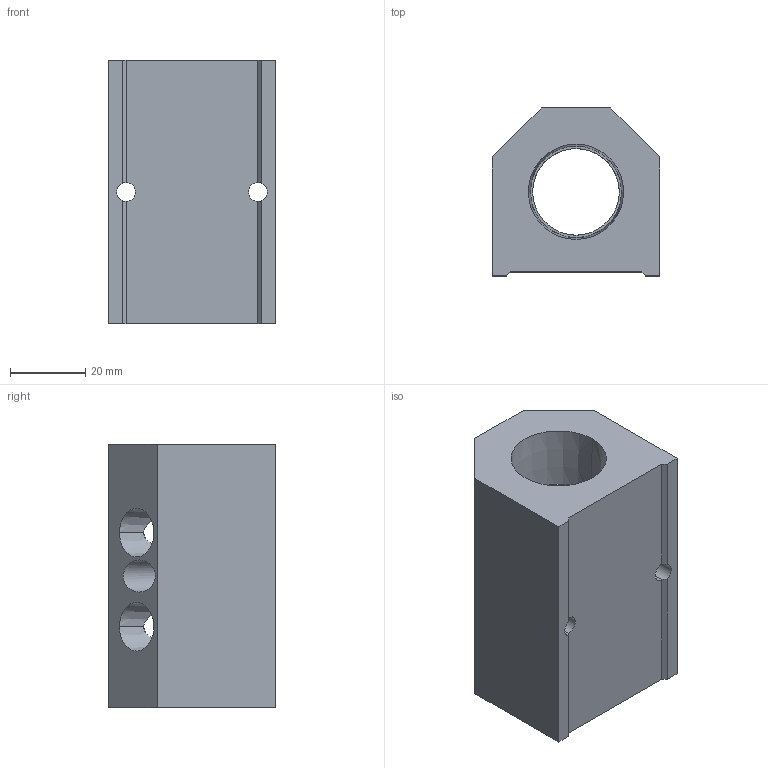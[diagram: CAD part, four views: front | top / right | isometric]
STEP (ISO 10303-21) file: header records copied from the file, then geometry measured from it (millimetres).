
FILE_DESCRIPTION (( 'STEP AP214' ), '1' );
FILE_NAME ('ALM2BCD-N4N12-70R.step', '2022-02-06T14:05:58', ( '' ), ( '' ), 'SwSTEP 2.0', 'SolidWorks 2020', '' );
FILE_SCHEMA (( 'AUTOMOTIVE_DESIGN' ));
Length unit declared in the file: millimetre
Products named in the file (1): ALM2BCD-N4N12-70R
Bounding box: 44.5 x 44.5 x 70 mm (x, y, z)
Volume: 82835.3 mm3; surface area: 21584.1 mm2
Topology: 1 solids, 1 shells, 305 faces, 822 edges, 544 vertices
Faces by surface type: plane 203, bspline 55, cone 26, cylinder 21
Entity records: 16548 total; most frequent: CARTESIAN_POINT 6571, ORIENTED_EDGE 1644, DIRECTION 1208, EDGE_CURVE 822, LINE 582, VECTOR 582, VERTEX_POINT 544, EDGE_LOOP 348
